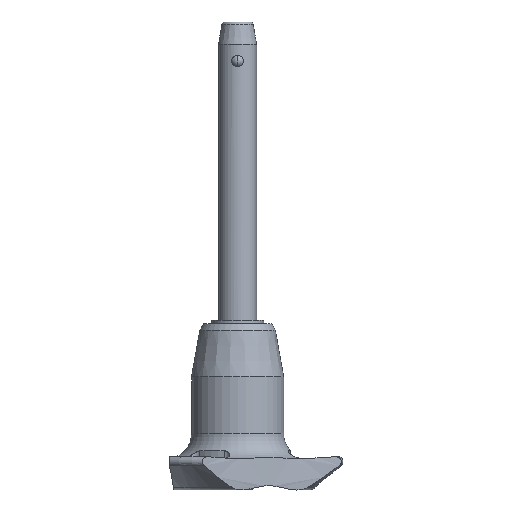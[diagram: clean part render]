
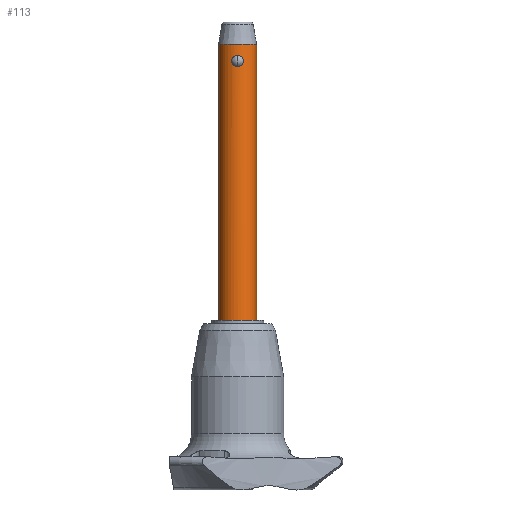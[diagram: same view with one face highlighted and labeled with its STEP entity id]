
A CAD part, front view. The second image highlights one B-rep face of the part: STEP entity #113.
In plain terms, the highlighted cylindrical face has radius 3 mm (diameter 6 mm), a partial arc.
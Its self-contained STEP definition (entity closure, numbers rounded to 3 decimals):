
#104 = CARTESIAN_POINT ( 'NONE',  ( 0., -3., 0. ) ) ;
#113 = ADVANCED_FACE ( 'NONE', ( #2188, #759 ), #319, .T. ) ;
#124 = CIRCLE ( 'NONE', #1653, 3. ) ;
#128 = CARTESIAN_POINT ( 'NONE',  ( 0.91, -2.859, 0.626 ) ) ;
#150 = CARTESIAN_POINT ( 'NONE',  ( -0.937, -2.85, 0.749 ) ) ;
#197 = CARTESIAN_POINT ( 'NONE',  ( 3., 0., -40. ) ) ;
#277 = CARTESIAN_POINT ( 'NONE',  ( 3., 0., -40. ) ) ;
#281 = VERTEX_POINT ( 'NONE', #197 ) ;
#294 = LINE ( 'NONE', #2480, #2581 ) ;
#319 = CYLINDRICAL_SURFACE ( 'NONE', #1776, 3. ) ;
#331 = CARTESIAN_POINT ( 'NONE',  ( 0.738, -2.909, 0.317 ) ) ;
#335 = CIRCLE ( 'NONE', #1380, 3. ) ;
#347 = CARTESIAN_POINT ( 'NONE',  ( 0.118, -3., 0. ) ) ;
#353 = CARTESIAN_POINT ( 'NONE',  ( 3., 0., 3.5 ) ) ;
#473 = LINE ( 'NONE', #277, #502 ) ;
#502 = VECTOR ( 'NONE', #2190, 1000. ) ;
#529 = CARTESIAN_POINT ( 'NONE',  ( -0.91, -2.859, 1.105 ) ) ;
#531 = CARTESIAN_POINT ( 'NONE',  ( 0., -3., 1.732 ) ) ;
#536 = EDGE_CURVE ( 'NONE', #281, #1919, #335, .T. ) ;
#557 = CARTESIAN_POINT ( 'NONE',  ( -0.118, -3., 0. ) ) ;
#570 = CARTESIAN_POINT ( 'NONE',  ( 0., -3., 0. ) ) ;
#676 = EDGE_CURVE ( 'NONE', #281, #1593, #473, .T. ) ;
#707 = DIRECTION ( 'NONE',  ( 1., 0., 0. ) ) ;
#716 = CARTESIAN_POINT ( 'NONE',  ( -3., 0., -40. ) ) ;
#728 = CARTESIAN_POINT ( 'NONE',  ( -0.238, -2.993, 1.712 ) ) ;
#744 = EDGE_CURVE ( 'NONE', #1049, #901, #1783, .T. ) ;
#750 = CARTESIAN_POINT ( 'NONE',  ( 0.911, -2.859, 1.103 ) ) ;
#753 = CARTESIAN_POINT ( 'NONE',  ( 0.12, -3., 1.732 ) ) ;
#759 = FACE_BOUND ( 'NONE', #928, .T. ) ;
#762 = CARTESIAN_POINT ( 'NONE',  ( -0.812, -2.889, 0.414 ) ) ;
#799 = EDGE_CURVE ( 'NONE', #901, #1049, #1482, .T. ) ;
#877 = ORIENTED_EDGE ( 'NONE', *, *, #536, .F. ) ;
#901 = VERTEX_POINT ( 'NONE', #570 ) ;
#928 = EDGE_LOOP ( 'NONE', ( #1828, #1637 ) ) ;
#933 = CARTESIAN_POINT ( 'NONE',  ( -3., 0., 3.5 ) ) ;
#934 = CARTESIAN_POINT ( 'NONE',  ( 0.812, -2.888, 1.317 ) ) ;
#947 = CARTESIAN_POINT ( 'NONE',  ( -0.12, -3., 1.732 ) ) ;
#951 = CARTESIAN_POINT ( 'NONE',  ( 0.564, -2.948, 1.57 ) ) ;
#957 = CARTESIAN_POINT ( 'NONE',  ( 0.937, -2.85, 0.744 ) ) ;
#966 = CARTESIAN_POINT ( 'NONE',  ( -0.74, -2.909, 0.318 ) ) ;
#968 = CARTESIAN_POINT ( 'NONE',  ( 0.74, -2.909, 1.414 ) ) ;
#973 = ORIENTED_EDGE ( 'NONE', *, *, #2461, .T. ) ;
#980 = CARTESIAN_POINT ( 'NONE',  ( -0.937, -2.85, 0.986 ) ) ;
#1049 = VERTEX_POINT ( 'NONE', #1750 ) ;
#1152 = CARTESIAN_POINT ( 'NONE',  ( -0.811, -2.889, 1.319 ) ) ;
#1190 = CARTESIAN_POINT ( 'NONE',  ( -0.564, -2.948, 0.162 ) ) ;
#1222 = EDGE_LOOP ( 'NONE', ( #2672, #877, #1667, #973 ) ) ;
#1367 = CARTESIAN_POINT ( 'NONE',  ( 0., 0., -40. ) ) ;
#1369 = CARTESIAN_POINT ( 'NONE',  ( -0.238, -2.993, 0.021 ) ) ;
#1380 = AXIS2_PLACEMENT_3D ( 'NONE', #2308, #2044, #2708 ) ;
#1385 = CARTESIAN_POINT ( 'NONE',  ( -0.461, -2.967, 1.63 ) ) ;
#1390 = DIRECTION ( 'NONE',  ( 0., 0., 1. ) ) ;
#1394 = DIRECTION ( 'NONE',  ( 0., 0., 1. ) ) ;
#1397 = CARTESIAN_POINT ( 'NONE',  ( -0.563, -2.948, 1.57 ) ) ;
#1482 = B_SPLINE_CURVE_WITH_KNOTS ( 'NONE', 3,
 ( #104, #347, #2419, #2209, #2429, #331, #2008, #128, #957, #1798, #750, #934, #968, #951, #1985, #2020, #753, #531 ),
 .UNSPECIFIED., .F., .F.,
 ( 4, 2, 2, 2, 2, 2, 2, 2, 4 ),
 ( 0.003, 0.003, 0.004, 0.004, 0.004, 0.005, 0.005, 0.005, 0.006 ),
 .UNSPECIFIED. ) ;
#1571 = EDGE_CURVE ( 'NONE', #1919, #1989, #294, .T. ) ;
#1593 = VERTEX_POINT ( 'NONE', #353 ) ;
#1603 = CARTESIAN_POINT ( 'NONE',  ( -0.911, -2.859, 0.63 ) ) ;
#1637 = ORIENTED_EDGE ( 'NONE', *, *, #799, .F. ) ;
#1653 = AXIS2_PLACEMENT_3D ( 'NONE', #1754, #2183, #707 ) ;
#1667 = ORIENTED_EDGE ( 'NONE', *, *, #676, .T. ) ;
#1750 = CARTESIAN_POINT ( 'NONE',  ( 0., -3., 1.732 ) ) ;
#1754 = CARTESIAN_POINT ( 'NONE',  ( 0., 0., 3.5 ) ) ;
#1776 = AXIS2_PLACEMENT_3D ( 'NONE', #1367, #1394, #2207 ) ;
#1783 = B_SPLINE_CURVE_WITH_KNOTS ( 'NONE', 3,
 ( #2446, #947, #728, #1385, #1397, #2631, #1152, #529, #980, #150, #1603, #762, #966, #1190, #1810, #1369, #557, #1826 ),
 .UNSPECIFIED., .F., .F.,
 ( 4, 2, 2, 2, 2, 2, 2, 2, 4 ),
 ( 0., 0., 0.001, 0.001, 0.001, 0.002, 0.002, 0.002, 0.003 ),
 .UNSPECIFIED. ) ;
#1798 = CARTESIAN_POINT ( 'NONE',  ( 0.937, -2.85, 0.985 ) ) ;
#1810 = CARTESIAN_POINT ( 'NONE',  ( -0.46, -2.967, 0.101 ) ) ;
#1826 = CARTESIAN_POINT ( 'NONE',  ( 0., -3., 0. ) ) ;
#1828 = ORIENTED_EDGE ( 'NONE', *, *, #744, .F. ) ;
#1919 = VERTEX_POINT ( 'NONE', #716 ) ;
#1985 = CARTESIAN_POINT ( 'NONE',  ( 0.461, -2.966, 1.63 ) ) ;
#1989 = VERTEX_POINT ( 'NONE', #933 ) ;
#2008 = CARTESIAN_POINT ( 'NONE',  ( 0.811, -2.889, 0.412 ) ) ;
#2020 = CARTESIAN_POINT ( 'NONE',  ( 0.238, -2.993, 1.712 ) ) ;
#2044 = DIRECTION ( 'NONE',  ( 0., 0., -1. ) ) ;
#2183 = DIRECTION ( 'NONE',  ( 0., 0., -1. ) ) ;
#2188 = FACE_OUTER_BOUND ( 'NONE', #1222, .T. ) ;
#2190 = DIRECTION ( 'NONE',  ( 0., 0., 1. ) ) ;
#2207 = DIRECTION ( 'NONE',  ( 1., 0., 0. ) ) ;
#2209 = CARTESIAN_POINT ( 'NONE',  ( 0.459, -2.967, 0.101 ) ) ;
#2308 = CARTESIAN_POINT ( 'NONE',  ( 0., 0., -40. ) ) ;
#2419 = CARTESIAN_POINT ( 'NONE',  ( 0.238, -2.993, 0.021 ) ) ;
#2429 = CARTESIAN_POINT ( 'NONE',  ( 0.563, -2.948, 0.162 ) ) ;
#2446 = CARTESIAN_POINT ( 'NONE',  ( 0., -3., 1.732 ) ) ;
#2461 = EDGE_CURVE ( 'NONE', #1593, #1989, #124, .T. ) ;
#2480 = CARTESIAN_POINT ( 'NONE',  ( -3., 0., -40. ) ) ;
#2581 = VECTOR ( 'NONE', #1390, 1000. ) ;
#2631 = CARTESIAN_POINT ( 'NONE',  ( -0.739, -2.909, 1.414 ) ) ;
#2672 = ORIENTED_EDGE ( 'NONE', *, *, #1571, .F. ) ;
#2708 = DIRECTION ( 'NONE',  ( 1., 0., 0. ) ) ;
